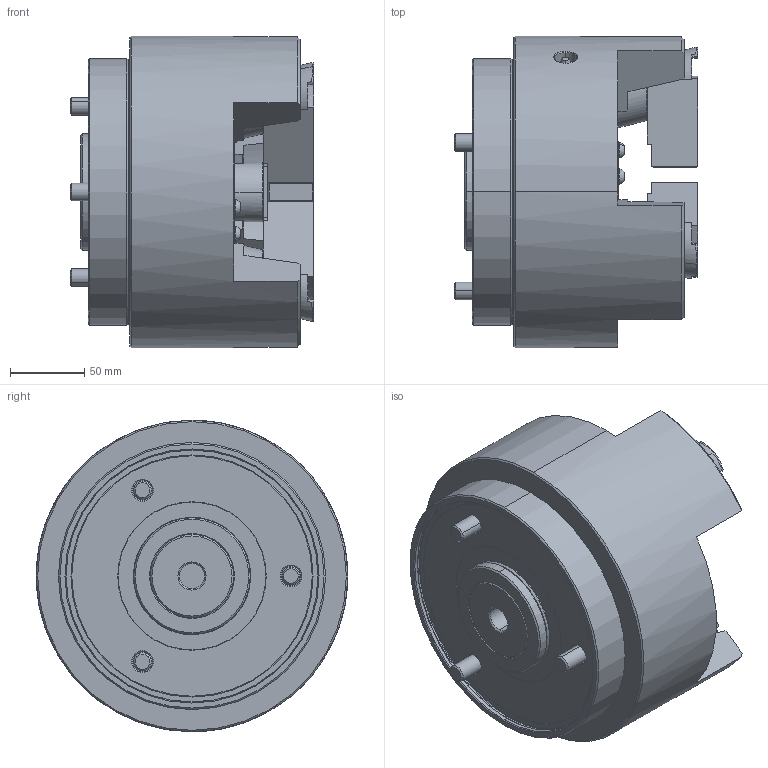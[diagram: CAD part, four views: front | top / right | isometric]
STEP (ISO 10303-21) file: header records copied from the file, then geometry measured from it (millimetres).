
FILE_DESCRIPTION (( 'STEP AP214' ), '1' );
FILE_NAME ('PUB208_UC.STEP', '2019-10-25T04:23:12', ( '' ), ( '' ), 'SwSTEP 2.0', 'SolidWorks 2017', '' );
FILE_SCHEMA (( 'AUTOMOTIVE_DESIGN' ));
Length unit declared in the file: millimetre
Products named in the file (4): 結合; 0030112030; 61P332356; PUB208_UC
Assembly tree (7 placements, depth 2):
  PUB208_UC
    61P332356  x3
    0030112030  x3
    結合
Bounding box: 164 x 210 x 210 mm (x, y, z)
Volume: 3464720.4 mm3; surface area: 266765 mm2
Topology: 7 solids, 7 shells, 995 faces, 2502 edges, 1582 vertices
Faces by surface type: plane 483, cone 180, bspline 168, cylinder 131, torus 33
Entity records: 34828 total; most frequent: CARTESIAN_POINT 14377, ORIENTED_EDGE 4508, DIRECTION 3668, EDGE_CURVE 2254, VERTEX_POINT 1444, VECTOR 1270, LINE 1270, AXIS2_PLACEMENT_3D 1199
